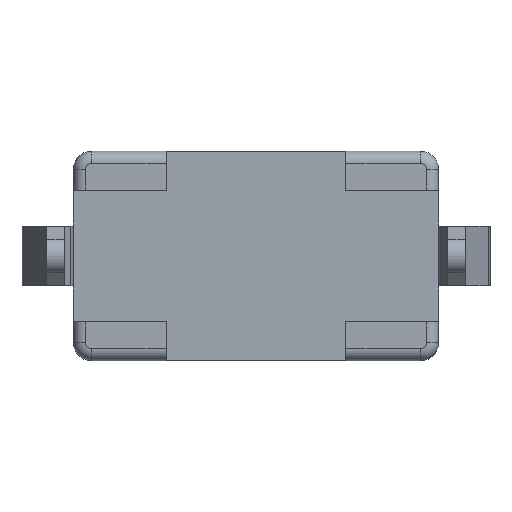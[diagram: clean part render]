
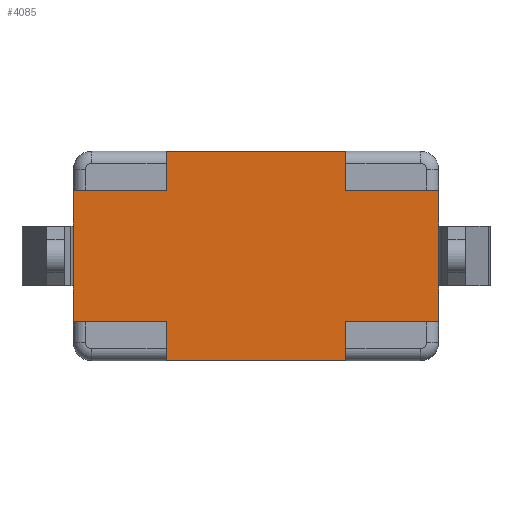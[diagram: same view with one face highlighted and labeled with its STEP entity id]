
A CAD part, front view. The second image highlights one B-rep face of the part: STEP entity #4085.
In plain terms, the highlighted planar face has unit normal (0, -1, 0).
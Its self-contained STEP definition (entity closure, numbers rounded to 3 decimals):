
#254 = EDGE_CURVE ( 'NONE', #2434, #2694, #1882, .T. ) ;
#260 = EDGE_CURVE ( 'NONE', #2420, #2747, #1893, .T. ) ;
#281 = EDGE_CURVE ( 'NONE', #2747, #2648, #1928, .T. ) ;
#338 = EDGE_CURVE ( 'NONE', #2708, #2803, #1447, .T. ) ;
#437 = DIRECTION ( 'NONE',  ( 0., 0., 1. ) ) ;
#440 = CARTESIAN_POINT ( 'NONE',  ( -3.05, 0.4, 0. ) ) ;
#528 = CARTESIAN_POINT ( 'NONE',  ( 3.05, 0.4, 0. ) ) ;
#539 = DIRECTION ( 'NONE',  ( 0., 0., 1. ) ) ;
#573 = CARTESIAN_POINT ( 'NONE',  ( -3.05, 0.4, 0. ) ) ;
#581 = CARTESIAN_POINT ( 'NONE',  ( 3.05, 0.4, 1.1 ) ) ;
#582 = DIRECTION ( 'NONE',  ( 0., 0., 1. ) ) ;
#600 = CARTESIAN_POINT ( 'NONE',  ( 3.05, 0.4, 0. ) ) ;
#609 = DIRECTION ( 'NONE',  ( 0., 0., 1. ) ) ;
#620 = CARTESIAN_POINT ( 'NONE',  ( 1.5, 0.4, 1.75 ) ) ;
#638 = DIRECTION ( 'NONE',  ( -1., 0., 0. ) ) ;
#639 = DIRECTION ( 'NONE',  ( -1., 0., 0. ) ) ;
#1058 = AXIS2_PLACEMENT_3D ( 'NONE', #7136, #7195, #7224 ) ;
#1447 = LINE ( 'NONE', #4452, #1455 ) ;
#1455 = VECTOR ( 'NONE', #4451, 1000. ) ;
#1637 = LINE ( 'NONE', #5812, #1638 ) ;
#1638 = VECTOR ( 'NONE', #5811, 1000. ) ;
#1674 = LINE ( 'NONE', #528, #1675 ) ;
#1675 = VECTOR ( 'NONE', #539, 1000. ) ;
#1676 = LINE ( 'NONE', #581, #1677 ) ;
#1677 = VECTOR ( 'NONE', #639, 1000. ) ;
#1678 = LINE ( 'NONE', #620, #1679 ) ;
#1679 = VECTOR ( 'NONE', #638, 1000. ) ;
#1680 = LINE ( 'NONE', #573, #1683 ) ;
#1683 = VECTOR ( 'NONE', #609, 1000. ) ;
#1720 = LINE ( 'NONE', #600, #1726 ) ;
#1726 = VECTOR ( 'NONE', #582, 1000. ) ;
#1757 = LINE ( 'NONE', #440, #1758 ) ;
#1758 = VECTOR ( 'NONE', #437, 1000. ) ;
#1800 = LINE ( 'NONE', #4599, #1806 ) ;
#1806 = VECTOR ( 'NONE', #4600, 1000. ) ;
#1882 = LINE ( 'NONE', #2131, #1883 ) ;
#1883 = VECTOR ( 'NONE', #2130, 1000. ) ;
#1890 = VECTOR ( 'NONE', #2110, 1000. ) ;
#1893 = LINE ( 'NONE', #2122, #1890 ) ;
#1928 = LINE ( 'NONE', #4408, #1929 ) ;
#1929 = VECTOR ( 'NONE', #4357, 1000. ) ;
#2110 = DIRECTION ( 'NONE',  ( 1., 0., 0. ) ) ;
#2122 = CARTESIAN_POINT ( 'NONE',  ( -3.05, 0.4, 1.1 ) ) ;
#2130 = DIRECTION ( 'NONE',  ( -1., 0., 0. ) ) ;
#2131 = CARTESIAN_POINT ( 'NONE',  ( 3.05, 0.4, -1.1 ) ) ;
#2188 = VERTEX_POINT ( 'NONE', #6104 ) ;
#2420 = VERTEX_POINT ( 'NONE', #5947 ) ;
#2434 = VERTEX_POINT ( 'NONE', #6063 ) ;
#2465 = VERTEX_POINT ( 'NONE', #6144 ) ;
#2508 = VERTEX_POINT ( 'NONE', #6021 ) ;
#2535 = VERTEX_POINT ( 'NONE', #6065 ) ;
#2538 = VERTEX_POINT ( 'NONE', #5970 ) ;
#2595 = VERTEX_POINT ( 'NONE', #6037 ) ;
#2634 = VERTEX_POINT ( 'NONE', #6062 ) ;
#2648 = VERTEX_POINT ( 'NONE', #5971 ) ;
#2694 = VERTEX_POINT ( 'NONE', #3796 ) ;
#2708 = VERTEX_POINT ( 'NONE', #3802 ) ;
#2747 = VERTEX_POINT ( 'NONE', #3723 ) ;
#2794 = VERTEX_POINT ( 'NONE', #3823 ) ;
#2803 = VERTEX_POINT ( 'NONE', #3903 ) ;
#2849 = VERTEX_POINT ( 'NONE', #3897 ) ;
#3073 = EDGE_LOOP ( 'NONE', ( #6440, #6441, #6442, #6443, #6444, #6445, #6446, #6447, #6448, #6449, #6450, #6451, #6452, #6453, #6454, #6455 ) ) ;
#3484 = LINE ( 'NONE', #7223, #3486 ) ;
#3486 = VECTOR ( 'NONE', #7205, 1000. ) ;
#3723 = CARTESIAN_POINT ( 'NONE',  ( -1.5, 0.4, 1.1 ) ) ;
#3796 = CARTESIAN_POINT ( 'NONE',  ( 1.5, 0.4, -1.1 ) ) ;
#3802 = CARTESIAN_POINT ( 'NONE',  ( -1.5, 0.4, -1.1 ) ) ;
#3823 = CARTESIAN_POINT ( 'NONE',  ( 3.05, 0.4, -0.5 ) ) ;
#3897 = CARTESIAN_POINT ( 'NONE',  ( 1.5, 0.4, -1.75 ) ) ;
#3903 = CARTESIAN_POINT ( 'NONE',  ( -1.5, 0.4, -1.75 ) ) ;
#4085 = ADVANCED_FACE ( 'NONE', ( #6813 ), #7115, .T. ) ;
#4104 = EDGE_CURVE ( 'NONE', #2634, #2708, #3484, .T. ) ;
#4357 = DIRECTION ( 'NONE',  ( 0., 0., 1. ) ) ;
#4408 = CARTESIAN_POINT ( 'NONE',  ( -1.5, 0.4, 1.75 ) ) ;
#4451 = DIRECTION ( 'NONE',  ( 0., 0., -1. ) ) ;
#4452 = CARTESIAN_POINT ( 'NONE',  ( -1.5, 0.4, -1.75 ) ) ;
#4599 = CARTESIAN_POINT ( 'NONE',  ( 3.05, 0.4, 0. ) ) ;
#4600 = DIRECTION ( 'NONE',  ( 0., 0., 1. ) ) ;
#4616 = CARTESIAN_POINT ( 'NONE',  ( 1.5, 0.4, -1.75 ) ) ;
#4617 = DIRECTION ( 'NONE',  ( 0., 0., -1. ) ) ;
#4620 = CARTESIAN_POINT ( 'NONE',  ( 1.5, 0.4, -1.75 ) ) ;
#4621 = DIRECTION ( 'NONE',  ( -1., 0., 0. ) ) ;
#4622 = CARTESIAN_POINT ( 'NONE',  ( 1.5, 0.4, 1.75 ) ) ;
#4623 = DIRECTION ( 'NONE',  ( 0., 0., 1. ) ) ;
#5272 = EDGE_CURVE ( 'NONE', #2188, #2420, #1637, .T. ) ;
#5295 = EDGE_CURVE ( 'NONE', #2794, #2465, #1674, .T. ) ;
#5296 = EDGE_CURVE ( 'NONE', #2538, #2535, #1676, .T. ) ;
#5297 = EDGE_CURVE ( 'NONE', #2595, #2648, #1678, .T. ) ;
#5302 = EDGE_CURVE ( 'NONE', #2634, #2508, #1680, .T. ) ;
#5331 = EDGE_CURVE ( 'NONE', #2465, #2538, #1720, .T. ) ;
#5347 = EDGE_CURVE ( 'NONE', #2508, #2188, #1757, .T. ) ;
#5378 = EDGE_CURVE ( 'NONE', #2434, #2794, #1800, .T. ) ;
#5386 = EDGE_CURVE ( 'NONE', #2694, #2849, #6318, .T. ) ;
#5388 = EDGE_CURVE ( 'NONE', #2849, #2803, #6322, .T. ) ;
#5389 = EDGE_CURVE ( 'NONE', #2535, #2595, #6324, .T. ) ;
#5811 = DIRECTION ( 'NONE',  ( 0., 0., 1. ) ) ;
#5812 = CARTESIAN_POINT ( 'NONE',  ( -3.05, 0.4, 0. ) ) ;
#5947 = CARTESIAN_POINT ( 'NONE',  ( -3.05, 0.4, 1.1 ) ) ;
#5970 = CARTESIAN_POINT ( 'NONE',  ( 3.05, 0.4, 1.1 ) ) ;
#5971 = CARTESIAN_POINT ( 'NONE',  ( -1.5, 0.4, 1.75 ) ) ;
#6021 = CARTESIAN_POINT ( 'NONE',  ( -3.05, 0.4, -0.5 ) ) ;
#6037 = CARTESIAN_POINT ( 'NONE',  ( 1.5, 0.4, 1.75 ) ) ;
#6062 = CARTESIAN_POINT ( 'NONE',  ( -3.05, 0.4, -1.1 ) ) ;
#6063 = CARTESIAN_POINT ( 'NONE',  ( 3.05, 0.4, -1.1 ) ) ;
#6065 = CARTESIAN_POINT ( 'NONE',  ( 1.5, 0.4, 1.1 ) ) ;
#6104 = CARTESIAN_POINT ( 'NONE',  ( -3.05, 0.4, 0.5 ) ) ;
#6144 = CARTESIAN_POINT ( 'NONE',  ( 3.05, 0.4, 0.5 ) ) ;
#6318 = LINE ( 'NONE', #4616, #6319 ) ;
#6319 = VECTOR ( 'NONE', #4617, 1000. ) ;
#6322 = LINE ( 'NONE', #4620, #6323 ) ;
#6323 = VECTOR ( 'NONE', #4621, 1000. ) ;
#6324 = LINE ( 'NONE', #4622, #6325 ) ;
#6325 = VECTOR ( 'NONE', #4623, 1000. ) ;
#6440 = ORIENTED_EDGE ( 'NONE', *, *, #5297, .T. ) ;
#6441 = ORIENTED_EDGE ( 'NONE', *, *, #281, .F. ) ;
#6442 = ORIENTED_EDGE ( 'NONE', *, *, #260, .F. ) ;
#6443 = ORIENTED_EDGE ( 'NONE', *, *, #5272, .F. ) ;
#6444 = ORIENTED_EDGE ( 'NONE', *, *, #5347, .F. ) ;
#6445 = ORIENTED_EDGE ( 'NONE', *, *, #5302, .F. ) ;
#6446 = ORIENTED_EDGE ( 'NONE', *, *, #4104, .T. ) ;
#6447 = ORIENTED_EDGE ( 'NONE', *, *, #338, .T. ) ;
#6448 = ORIENTED_EDGE ( 'NONE', *, *, #5388, .F. ) ;
#6449 = ORIENTED_EDGE ( 'NONE', *, *, #5386, .F. ) ;
#6450 = ORIENTED_EDGE ( 'NONE', *, *, #254, .F. ) ;
#6451 = ORIENTED_EDGE ( 'NONE', *, *, #5378, .T. ) ;
#6452 = ORIENTED_EDGE ( 'NONE', *, *, #5295, .T. ) ;
#6453 = ORIENTED_EDGE ( 'NONE', *, *, #5331, .T. ) ;
#6454 = ORIENTED_EDGE ( 'NONE', *, *, #5296, .T. ) ;
#6455 = ORIENTED_EDGE ( 'NONE', *, *, #5389, .T. ) ;
#6813 = FACE_OUTER_BOUND ( 'NONE', #3073, .T. ) ;
#7115 = PLANE ( 'NONE',  #1058 ) ;
#7136 = CARTESIAN_POINT ( 'NONE',  ( 3.05, 0.4, 0. ) ) ;
#7195 = DIRECTION ( 'NONE',  ( 0., -1., 0. ) ) ;
#7205 = DIRECTION ( 'NONE',  ( 1., 0., 0. ) ) ;
#7223 = CARTESIAN_POINT ( 'NONE',  ( -3.05, 0.4, -1.1 ) ) ;
#7224 = DIRECTION ( 'NONE',  ( 0., 0., -1. ) ) ;
